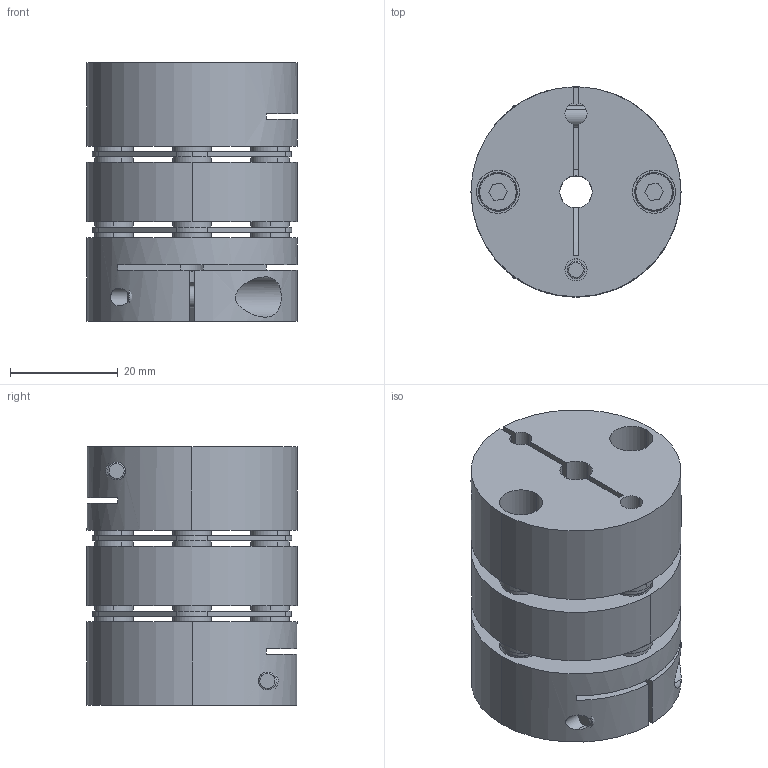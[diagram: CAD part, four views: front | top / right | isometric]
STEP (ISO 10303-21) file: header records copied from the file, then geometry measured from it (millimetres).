
FILE_DESCRIPTION (( 'STEP AP214' ), '1' );
FILE_NAME ('LC-A-035DA-6B-6B.STEP', '2019-09-12T07:17:51', ( 'admin' ), ( 'Microsoft' ), 'SwSTEP 2.0', 'SolidWorks 2016', '' );
FILE_SCHEMA (( 'AUTOMOTIVE_DESIGN' ));
Length unit declared in the file: millimetre
Products named in the file (1): LC-A-035DA-6B-6B
Bounding box: 39 x 39 x 48 mm (x, y, z)
Volume: 42781 mm3; surface area: 25138.1 mm2
Topology: 31 solids, 31 shells, 440 faces, 1032 edges, 668 vertices
Faces by surface type: cylinder 202, plane 178, torus 40, cone 20
Entity records: 18448 total; most frequent: CARTESIAN_POINT 2559, DIRECTION 2398, ORIENTED_EDGE 2064, EDGE_CURVE 1032, AXIS2_PLACEMENT_3D 955, VERTEX_POINT 668, EDGE_LOOP 552, CIRCLE 514
